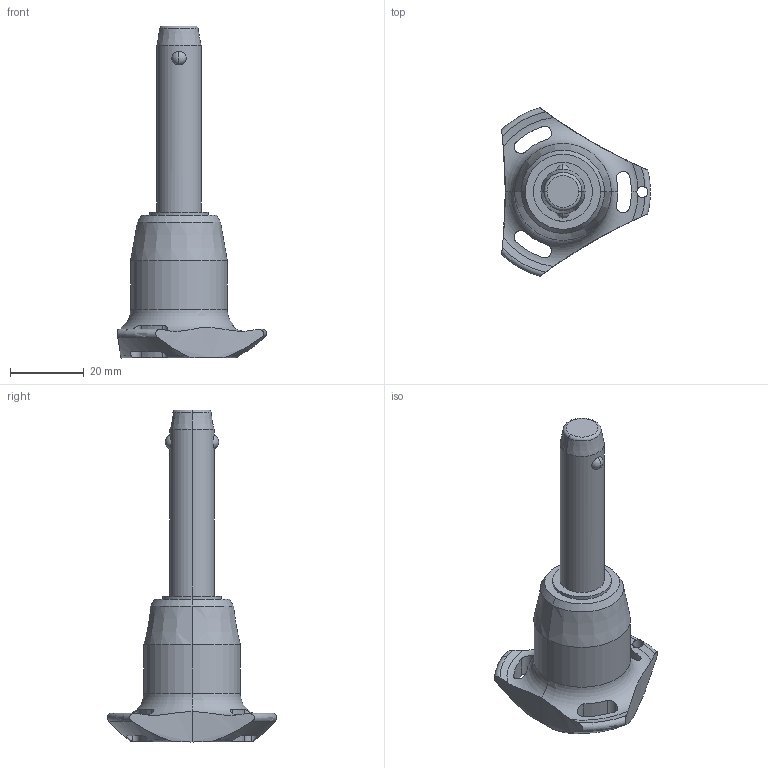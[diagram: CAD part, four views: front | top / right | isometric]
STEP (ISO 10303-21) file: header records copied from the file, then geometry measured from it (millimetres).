
FILE_DESCRIPTION (( 'STEP AP203' ), '1' );
FILE_NAME ('QR1704.M12-040-S.step', '2025-11-12T09:24:30', ( '' ), ( '' ), 'SwSTEP 2.0', 'SolidWorks 2019', '' );
FILE_SCHEMA (( 'CONFIG_CONTROL_DESIGN' ));
Length unit declared in the file: millimetre
Products named in the file (1): QR1704.M12-040-S
Bounding box: 40.5 x 45.88 x 90.3 mm (x, y, z)
Volume: 27659.1 mm3; surface area: 7845.6 mm2
Topology: 1 solids, 1 shells, 65 faces, 178 edges, 113 vertices
Faces by surface type: cylinder 30, cone 14, torus 11, sphere 6, plane 4
Entity records: 2862 total; most frequent: CARTESIAN_POINT 1173, ORIENTED_EDGE 356, DIRECTION 329, EDGE_CURVE 178, AXIS2_PLACEMENT_3D 147, VERTEX_POINT 113, CIRCLE 81, EDGE_LOOP 71
